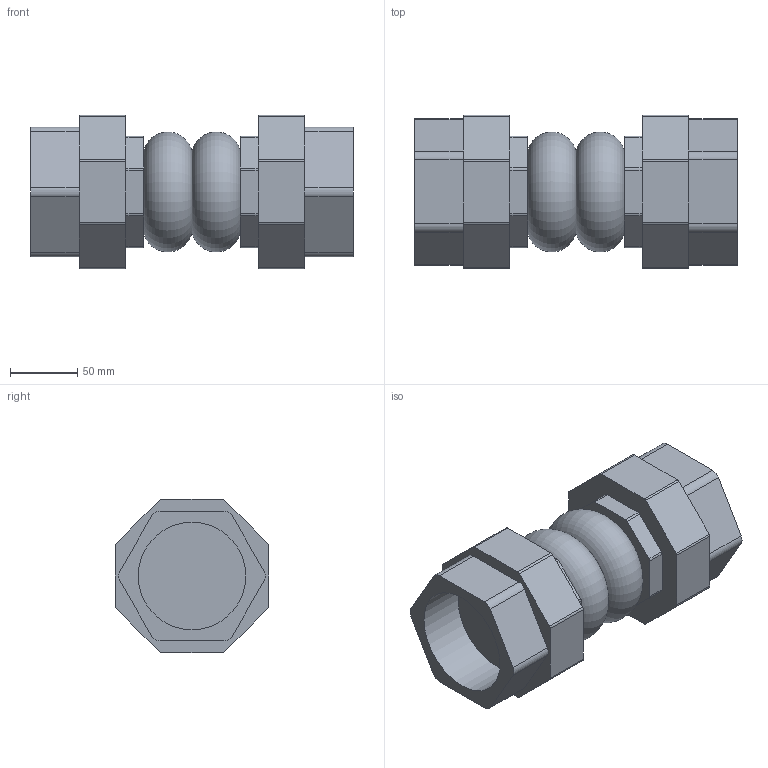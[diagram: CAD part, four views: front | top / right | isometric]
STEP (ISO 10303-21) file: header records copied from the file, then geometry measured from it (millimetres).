
FILE_DESCRIPTION(('STEP AP203'), '1');
FILE_NAME('3D_505-080-16', '', ('UNSPECIFIED'), ('UNSPECIFIED'), 'C3D Converter', 'C3D Toolkit', '');
FILE_SCHEMA(('CONFIG_CONTROL_DESIGN'));
Length unit declared in the file: millimetre
Bounding box: 240 x 114 x 114 mm (x, y, z)
Volume: 1500220.4 mm3; surface area: 137588.2 mm2
Topology: 1 solids, 1 shells, 102 faces, 278 edges, 186 vertices
Faces by surface type: plane 54, cylinder 46, torus 2
Full cylindrical faces by diameter (mm): 80 x2
Entity records: 4087 total; most frequent: DIRECTION 578, CARTESIAN_POINT 563, ORIENTED_EDGE 548, EDGE_CURVE 274, AXIS2_PLACEMENT_3D 201, VERTEX_POINT 186, LINE 176, VECTOR 176
